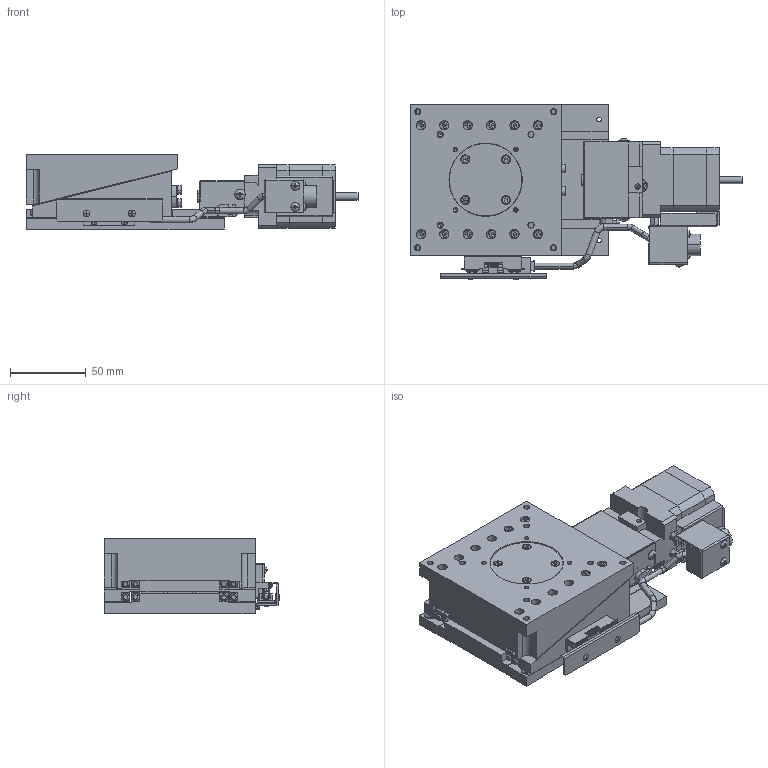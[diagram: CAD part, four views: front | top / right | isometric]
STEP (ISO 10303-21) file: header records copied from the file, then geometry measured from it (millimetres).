
FILE_DESCRIPTION (( 'STEP AP203' ), '1' );
FILE_NAME ('ZA10A-W2C02-R.STEP', '2019-02-25T07:18:27', ( '' ), ( '' ), 'SwSTEP 2.0', 'SolidWorks 2018', '' );
FILE_SCHEMA (( 'CONFIG_CONTROL_DESIGN' ));
Length unit declared in the file: millimetre
Products named in the file (5): base-Part-1; secound table; base; table; ZA10A-W2C02-R
Assembly tree (4 placements, depth 3):
  ZA10A-W2C02-R
    base
      base-Part-1
    table
    secound table
Bounding box: 219.5 x 116.18 x 50 mm (x, y, z)
Volume: 622304.7 mm3; surface area: 148780.5 mm2
Topology: 3 solids, 6 shells, 2542 faces, 6202 edges, 3757 vertices
Faces by surface type: plane 1488, cylinder 627, cone 373, torus 28, sphere 26
Entity records: 74418 total; most frequent: CARTESIAN_POINT 13417, DIRECTION 13180, ORIENTED_EDGE 12152, EDGE_CURVE 6076, AXIS2_PLACEMENT_3D 4708, LINE 3764, VECTOR 3764, VERTEX_POINT 3751
